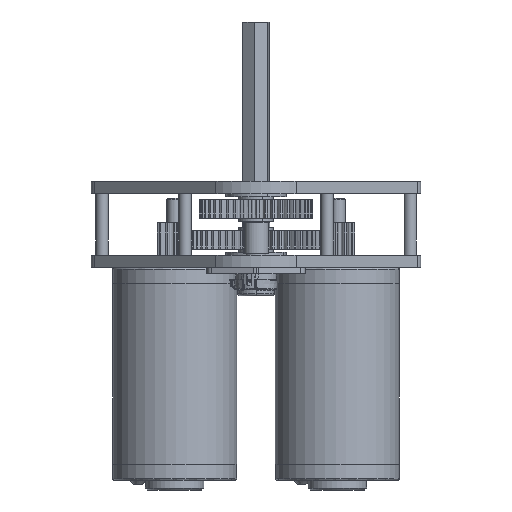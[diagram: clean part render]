
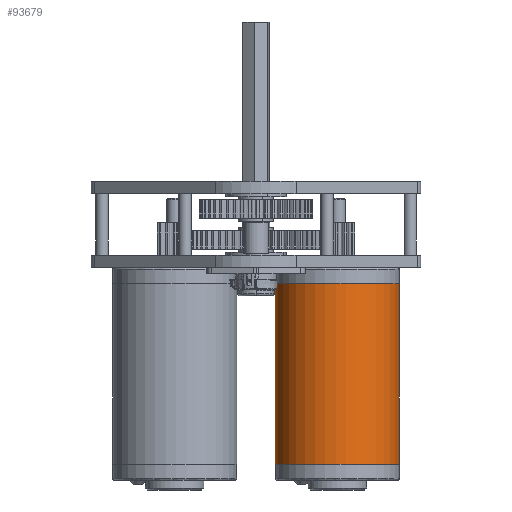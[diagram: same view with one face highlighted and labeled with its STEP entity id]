
A CAD part, front view. The second image highlights one B-rep face of the part: STEP entity #93679.
In plain terms, the highlighted cylindrical face has radius 32.004 mm (diameter 64.008 mm), a partial arc.
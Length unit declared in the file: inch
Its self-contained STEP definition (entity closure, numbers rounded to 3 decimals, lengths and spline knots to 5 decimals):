
#5635 = CYLINDRICAL_SURFACE ( 'NONE', #23602, 1.26 ) ;
#6742 = ORIENTED_EDGE ( 'NONE', *, *, #124974, .T. ) ;
#7033 = VERTEX_POINT ( 'NONE', #23182 ) ;
#12189 = EDGE_CURVE ( 'NONE', #7033, #55302, #46871, .T. ) ;
#15215 = EDGE_LOOP ( 'NONE', ( #100990, #6742, #104599, #27875 ) ) ;
#16959 = CARTESIAN_POINT ( 'NONE',  ( 0.324, 0., 1.26 ) ) ;
#22895 = CARTESIAN_POINT ( 'NONE',  ( 0.324, 0., 0. ) ) ;
#23182 = CARTESIAN_POINT ( 'NONE',  ( 0.324, 0., -1.26 ) ) ;
#23602 = AXIS2_PLACEMENT_3D ( 'NONE', #96625, #51134, #130691 ) ;
#24912 = DIRECTION ( 'NONE',  ( 0., 0., -1. ) ) ;
#27875 = ORIENTED_EDGE ( 'NONE', *, *, #109408, .T. ) ;
#30236 = AXIS2_PLACEMENT_3D ( 'NONE', #60606, #69753, #92564 ) ;
#30960 = EDGE_CURVE ( 'NONE', #93680, #63560, #140246, .T. ) ;
#38987 = CIRCLE ( 'NONE', #30236, 1.26 ) ;
#46871 = LINE ( 'NONE', #87734, #126628 ) ;
#51134 = DIRECTION ( 'NONE',  ( 1., 0., 0. ) ) ;
#55302 = VERTEX_POINT ( 'NONE', #104966 ) ;
#60606 = CARTESIAN_POINT ( 'NONE',  ( 3.99096, 0., 0. ) ) ;
#62703 = DIRECTION ( 'NONE',  ( 1., 0., 0. ) ) ;
#63560 = VERTEX_POINT ( 'NONE', #121910 ) ;
#67562 = CARTESIAN_POINT ( 'NONE',  ( 0., 0., 1.26 ) ) ;
#69753 = DIRECTION ( 'NONE',  ( -1., 0., 0. ) ) ;
#78482 = FACE_OUTER_BOUND ( 'NONE', #15215, .T. ) ;
#85111 = AXIS2_PLACEMENT_3D ( 'NONE', #22895, #131775, #24912 ) ;
#87734 = CARTESIAN_POINT ( 'NONE',  ( 0., 0., -1.26 ) ) ;
#92564 = DIRECTION ( 'NONE',  ( 0., 0., -1. ) ) ;
#93679 = ADVANCED_FACE ( 'NONE', ( #78482 ), #5635, .T. ) ;
#93680 = VERTEX_POINT ( 'NONE', #16959 ) ;
#96625 = CARTESIAN_POINT ( 'NONE',  ( 0., 0., 0. ) ) ;
#100990 = ORIENTED_EDGE ( 'NONE', *, *, #30960, .F. ) ;
#104599 = ORIENTED_EDGE ( 'NONE', *, *, #12189, .T. ) ;
#104966 = CARTESIAN_POINT ( 'NONE',  ( 3.99096, 0., -1.26 ) ) ;
#106205 = DIRECTION ( 'NONE',  ( 1., 0., 0. ) ) ;
#109408 = EDGE_CURVE ( 'NONE', #55302, #63560, #38987, .T. ) ;
#121910 = CARTESIAN_POINT ( 'NONE',  ( 3.99096, 0., 1.26 ) ) ;
#124974 = EDGE_CURVE ( 'NONE', #93680, #7033, #131157, .T. ) ;
#126628 = VECTOR ( 'NONE', #62703, 39.37008 ) ;
#130691 = DIRECTION ( 'NONE',  ( 0., 0., -1. ) ) ;
#131157 = CIRCLE ( 'NONE', #85111, 1.26 ) ;
#131775 = DIRECTION ( 'NONE',  ( 1., 0., 0. ) ) ;
#133172 = VECTOR ( 'NONE', #106205, 39.37008 ) ;
#140246 = LINE ( 'NONE', #67562, #133172 ) ;
